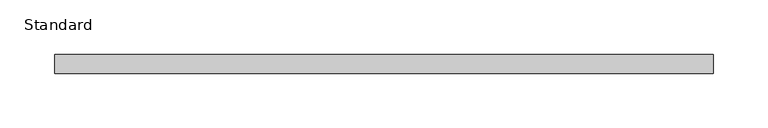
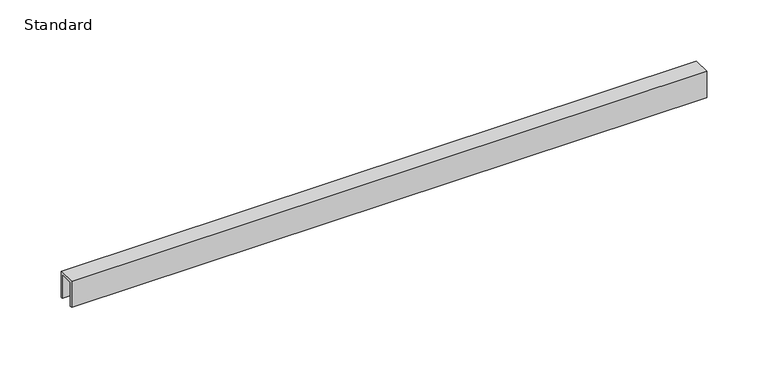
"""IFC4 building model written with IfcOpenShell, lengths in millimetres: furniture geometry, X_Partition-Channel-Duracube-Ceiling : Standard."""

from ifc_helpers import new_model, si_unit, frame, origin, place, context, project, spatial, polyline, outline, extrude, source, transform, mapped, element, save


def standard_4e63757f(model_context):
    return source(origin(), model_context, "Body", "SweptSolid", [
        extrude(outline(polyline([(0.0, 0.0), (-2.0, 0.0), (-2.0, 24.0), (-15.0, 24.0), (-15.0, 0.0), (-17.0, 0.0), (-17.0, 26.0), (0.0, 26.0), (0.0, 0.0)])), frame((-255.2996736, 0.0, 0.0), z_axis=(1.0, 0.0, 0.0), x_axis=(0.0, 1.0, 0.0)), (0.0, 0.0, 1.0), 600.0),
    ])


if __name__ == "__main__":
    model = new_model("IFC4")
    model_context = context("Model", 3, world=origin())
    ifc_project = project(units=[si_unit("LENGTHUNIT", "METRE", prefix="MILLI")], contexts=[model_context])
    site = spatial("IfcSite", under=ifc_project)
    building = spatial("IfcBuilding", under=site)
    placement = place(None, origin())
    standard_shape = standard_4e63757f(model_context)
    element("IfcFurniture", 1, ObjectType="X_Partition-Channel-Duracube-Ceiling : Standard", at=placement, inside=building, context=model_context, shape_type="MappedRepresentation", body=[
        mapped(standard_shape, transform((0.0, 0.0, 0.0), x_axis=(1.0, 0.0, 0.0), y_axis=(0.0, 1.0, 0.0), z_axis=(0.0, 0.0, 1.0))),
    ])
    save(model, "model.ifc")
